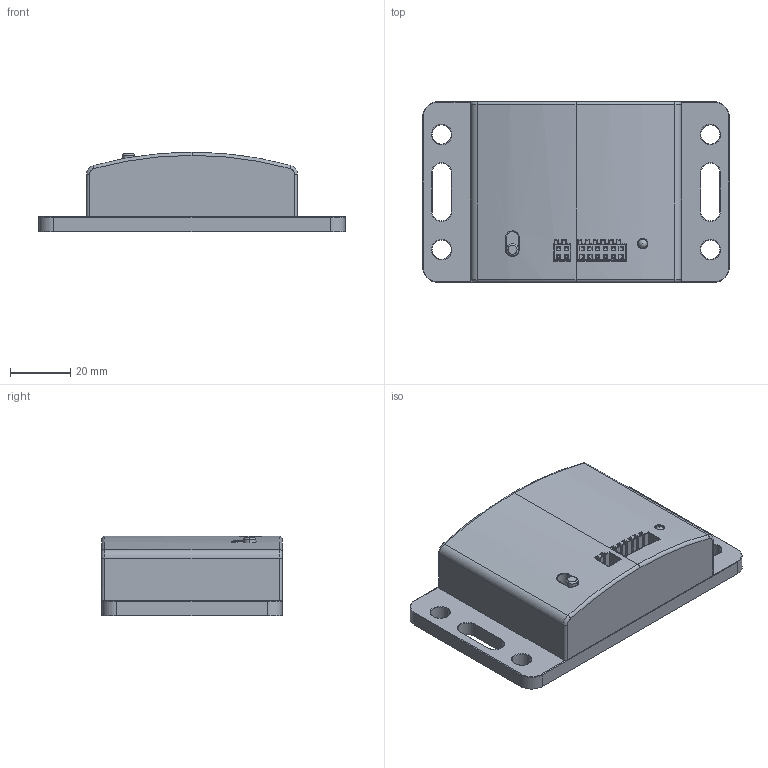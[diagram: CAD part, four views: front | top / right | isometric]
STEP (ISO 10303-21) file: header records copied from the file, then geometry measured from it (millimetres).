
FILE_DESCRIPTION (( 'STEP AP203' ), '1' );
FILE_NAME ('VEXRC-RX.STEP', '2007-11-07T16:17:44', ( 'Innovation First, Inc.' ), ( 'Innovation First, Inc.' ), 'SwSTEP 2.0', 'SolidWorks 2006303', '' );
FILE_SCHEMA (( 'CONFIG_CONTROL_DESIGN' ));
Length unit declared in the file: inch
Products named in the file (7): VEXRC-RX-MOTOR-PORTS; CONTROLLER-POWER-COVER1; VEXRC-RX; VEXRC-RX-POWER-CONNECTOR; VEXRC-RX-TOP; VEXRC-RX-BOTTOM; VEXRC-RX-LED
Assembly tree (6 placements, depth 2):
  VEXRC-RX
    VEXRC-RX-BOTTOM
    VEXRC-RX-LED
    VEXRC-RX-MOTOR-PORTS
    VEXRC-RX-POWER-CONNECTOR
    CONTROLLER-POWER-COVER1
    VEXRC-RX-TOP
Bounding box: 101.4 x 59.8 x 26.2 mm (x, y, z)
Volume: 27350 mm3; surface area: 43555.5 mm2
Topology: 6 solids, 6 shells, 656 faces, 1722 edges, 1109 vertices
Faces by surface type: plane 431, cylinder 133, torus 45, cone 40, bspline 6, sphere 1
Entity records: 23430 total; most frequent: CARTESIAN_POINT 6711, ORIENTED_EDGE 3438, DIRECTION 3062, EDGE_CURVE 1719, VECTOR 1184, LINE 1184, VERTEX_POINT 1107, AXIS2_PLACEMENT_3D 939
